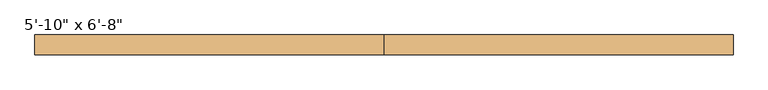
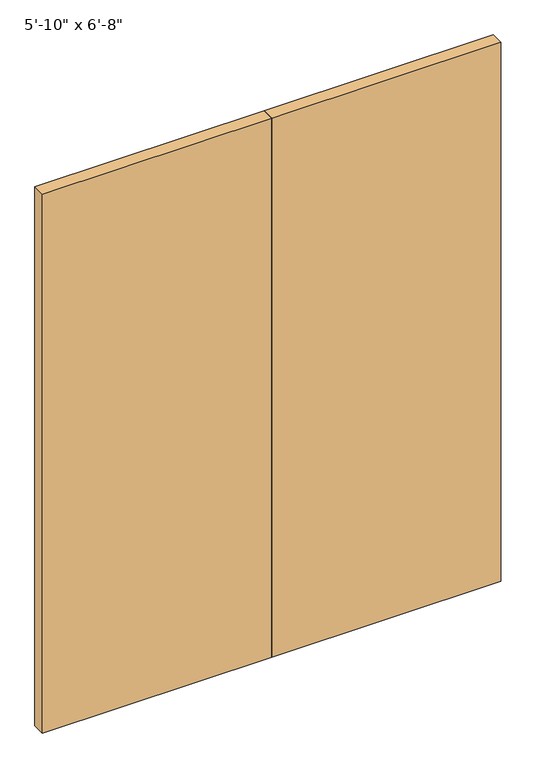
"""IFC4 building model written with IfcOpenShell, lengths in millimetres: door geometry."""

from ifc_helpers import new_model, si_unit, origin, origin_with_axes, place, context, project, spatial, polyline, outline, extrude, source, transform, mapped, element, save


def door_7a34eea0(model_context):
    return source(origin(), model_context, "Body", "SweptSolid", [
        extrude(outline(polyline([(0.0, 76.2), (889.0, 76.2), (889.0, 26.2), (0.0, 26.2), (0.0, 76.2)])), origin_with_axes(), (0.0, 0.0, 1.0), 2209.8),
        extrude(outline(polyline([(-889.0, 76.2), (0.0, 76.2), (0.0, 26.2), (-889.0, 26.2), (-889.0, 76.2)])), origin_with_axes(), (0.0, 0.0, 1.0), 2209.8),
    ])


if __name__ == "__main__":
    model = new_model("IFC4")
    model_context = context("Model", 3, world=origin())
    ifc_project = project(units=[si_unit("LENGTHUNIT", "METRE", prefix="MILLI")], contexts=[model_context])
    site = spatial("IfcSite", under=ifc_project)
    building = spatial("IfcBuilding", under=site)
    placement = place(None, origin())
    door_shape = door_7a34eea0(model_context)
    element("IfcDoor", 1, ObjectType="Planitar - Double Door_Flush Panel : 5'-10\" x 6'-8\"", at=placement, inside=building, context=model_context, shape_type="MappedRepresentation", body=[
        mapped(door_shape, transform((0.0, 0.0, 0.0), x_axis=(1.0, 0.0, 0.0), y_axis=(0.0, 1.0, 0.0), z_axis=(0.0, 0.0, 1.0))),
    ])
    save(model, "model.ifc")
